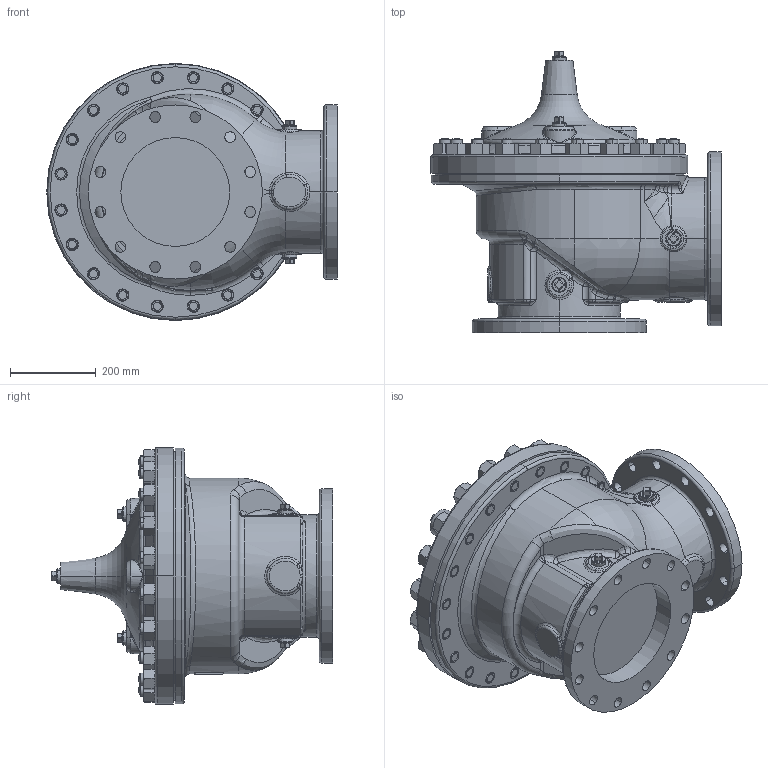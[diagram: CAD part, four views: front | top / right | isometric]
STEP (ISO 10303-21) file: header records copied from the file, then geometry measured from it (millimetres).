
FILE_DESCRIPTION (( 'STEP AP203' ), '1' );
FILE_NAME ('10in 100-01 Main Valve, 150AA (STD).STEP', '2019-02-25T18:15:59', ( '' ), ( '' ), 'SwSTEP 2.0', 'SolidWorks 2018', '' );
FILE_SCHEMA (( 'CONFIG_CONTROL_DESIGN' ));
Length unit declared in the file: inch
Products named in the file (6): 1.0 NPT SQ HD PIPE PLUG (67660)_18-8 SST; 10in Body HyAn150 (STD)_D.I. Flat Face; 10in 100-01 Main Valve, 150AA (STD); 10in Cover 100-01_NO SpotFace-2 bosses drld; Hexnut 1.250-7 UNC (67820)_ASF-STEEL,CP; STUD 1.125-7 UNC (42785)_STEEL SA 193, 4.25 LG
Assembly tree (49 placements, depth 2):
  10in 100-01 Main Valve, 150AA (STD)
    10in Body HyAn150 (STD)_D.I. Flat Face
    10in Cover 100-01_NO SpotFace-2 bosses drld
    STUD 1.125-7 UNC (42785)_STEEL SA 193, 4.25 LG  x20
    Hexnut 1.250-7 UNC (67820)_ASF-STEEL,CP  x20
    1.0 NPT SQ HD PIPE PLUG (67660)_18-8 SST  x7
Bounding box: 677.93 x 656.72 x 599.95 mm (x, y, z)
Volume: 79284573.3 mm3; surface area: 3275169.4 mm2
Topology: 50 solids, 50 shells, 1670 faces, 3773 edges, 2165 vertices
Faces by surface type: cone 520, cylinder 467, plane 296, bspline 172, torus 132, sphere 83
Entity records: 36692 total; most frequent: CARTESIAN_POINT 17168, DIRECTION 3837, ORIENTED_EDGE 3666, EDGE_CURVE 1833, AXIS2_PLACEMENT_3D 1703, VERTEX_POINT 1092, CIRCLE 1054, EDGE_LOOP 957
